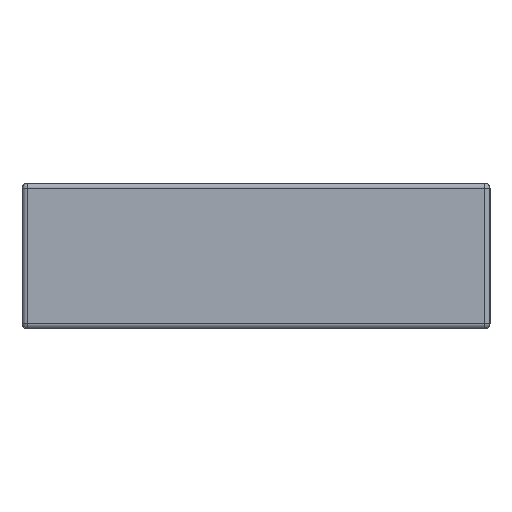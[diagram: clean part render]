
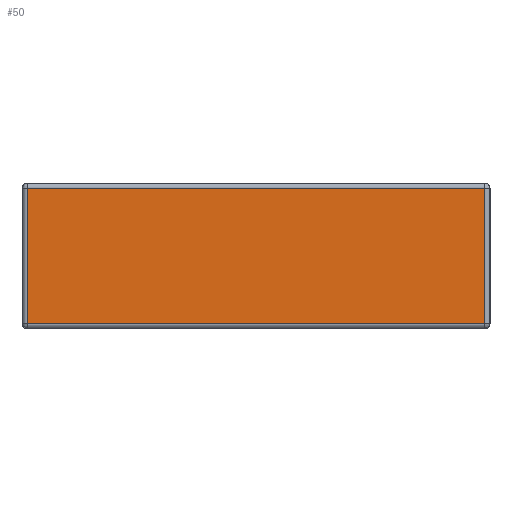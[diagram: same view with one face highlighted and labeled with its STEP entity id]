
A CAD part, left-side view. The second image highlights one B-rep face of the part: STEP entity #50.
In plain terms, the highlighted planar face has unit normal (-1, 0, 0).
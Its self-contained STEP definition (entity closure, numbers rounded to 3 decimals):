
#50=ADVANCED_FACE('',(#110),#813,.T.);
#110=FACE_OUTER_BOUND('',#171,.T.);
#171=EDGE_LOOP('',(#325,#326,#327,#328));
#325=ORIENTED_EDGE('',*,*,#524,.T.);
#326=ORIENTED_EDGE('',*,*,#523,.T.);
#327=ORIENTED_EDGE('',*,*,#525,.T.);
#328=ORIENTED_EDGE('',*,*,#522,.F.);
#522=EDGE_CURVE('',#788,#789,#682,.T.);
#523=EDGE_CURVE('',#790,#791,#683,.T.);
#524=EDGE_CURVE('',#788,#790,#684,.T.);
#525=EDGE_CURVE('',#791,#789,#685,.T.);
#682=B_SPLINE_CURVE_WITH_KNOTS('',1,(#2552,#2553),.UNSPECIFIED.,.F.,.F.,
(2,2),(5.,445.),.UNSPECIFIED.);
#683=B_SPLINE_CURVE_WITH_KNOTS('',1,(#2554,#2555),.UNSPECIFIED.,.F.,.F.,
(2,2),(5.,445.),.UNSPECIFIED.);
#684=B_SPLINE_CURVE_WITH_KNOTS('',1,(#2556,#2557),.UNSPECIFIED.,.F.,.F.,
(2,2),(5.,135.),.UNSPECIFIED.);
#685=B_SPLINE_CURVE_WITH_KNOTS('',1,(#2558,#2559),.UNSPECIFIED.,.F.,.F.,
(2,2),(5.,135.),.UNSPECIFIED.);
#788=VERTEX_POINT('',#2041);
#789=VERTEX_POINT('',#2042);
#790=VERTEX_POINT('',#2043);
#791=VERTEX_POINT('',#2044);
#813=PLANE('',#969);
#969=AXIS2_PLACEMENT_3D('',#1731,#1047,$);
#1047=DIRECTION('',(-1.,0.,0.));
#1731=CARTESIAN_POINT('',(-400.,5.,0.));
#2041=CARTESIAN_POINT('',(-400.,0.,135.));
#2042=CARTESIAN_POINT('',(-400.,-440.,135.));
#2043=CARTESIAN_POINT('',(-400.,0.,5.));
#2044=CARTESIAN_POINT('',(-400.,-440.,5.));
#2552=CARTESIAN_POINT('',(-400.,0.,135.));
#2553=CARTESIAN_POINT('',(-400.,-440.,135.));
#2554=CARTESIAN_POINT('',(-400.,0.,5.));
#2555=CARTESIAN_POINT('',(-400.,-440.,5.));
#2556=CARTESIAN_POINT('',(-400.,0.,135.));
#2557=CARTESIAN_POINT('',(-400.,0.,5.));
#2558=CARTESIAN_POINT('',(-400.,-440.,5.));
#2559=CARTESIAN_POINT('',(-400.,-440.,135.));
